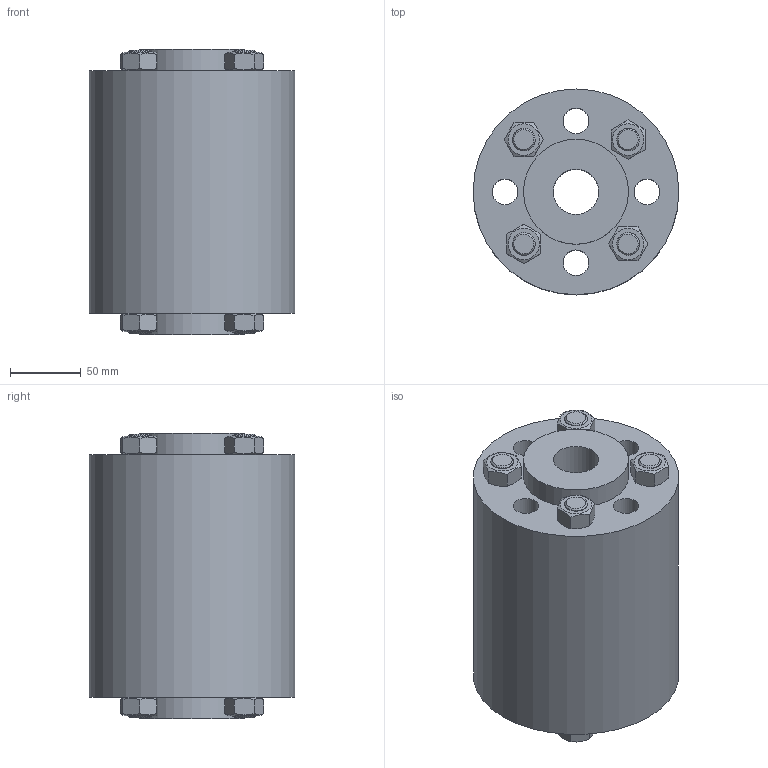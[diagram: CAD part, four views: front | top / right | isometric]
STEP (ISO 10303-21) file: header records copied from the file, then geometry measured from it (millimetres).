
FILE_DESCRIPTION(/* description */ ('ACI TYPE 620 DN32'),/* implementation_level */ '2;1');
FILE_NAME(/* name */ 'C:\Users\willms\Desktop\ACI620-32.stp',/* time_stamp */ '2020-03-19T10:13:26+01:00',/* author */ ('götz'),/* organization */ ('ACI Industriearmaturen GmbH www.aci24.com info@aci24.com'),/* preprocessor_version */ 'ST-DEVELOPER v16.1',/* originating_system */ 'Autodesk Inventor 2016',/* authorisation */ 'ACI Industriearmaturen GmbH www.aci24.com info@aci24.com');
FILE_SCHEMA (('CONFIG_CONTROL_DESIGN'));
Length unit declared in the file: centimetre
Products named in the file (1): ACI620-32
Bounding box: 145 x 145 x 201 mm (x, y, z)
Volume: 2670234.2 mm3; surface area: 183026 mm2
Topology: 1 solids, 9 shells, 140 faces, 313 edges, 201 vertices
Faces by surface type: plane 76, cone 40, cylinder 24
Full cylindrical faces by diameter (mm): 16 x16, 18 x4, 32 x1, 74 x2, 145 x1
Entity records: 3498 total; most frequent: CARTESIAN_POINT 749, DIRECTION 506, ORIENTED_EDGE 464, EDGE_LOOP 240, EDGE_CURVE 232, AXIS2_PLACEMENT_3D 229, VERTEX_POINT 184, FACE_OUTER_BOUND 140
